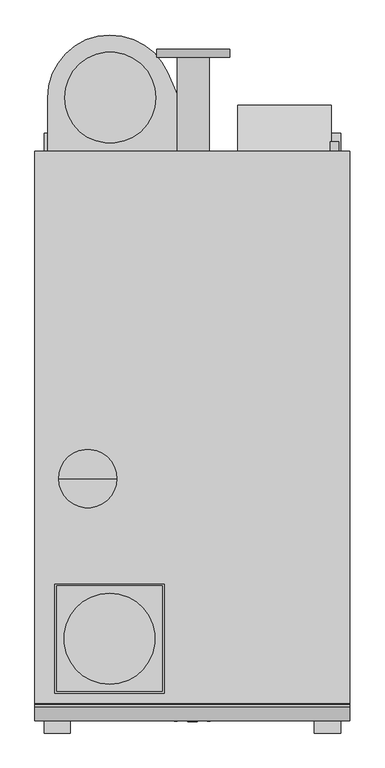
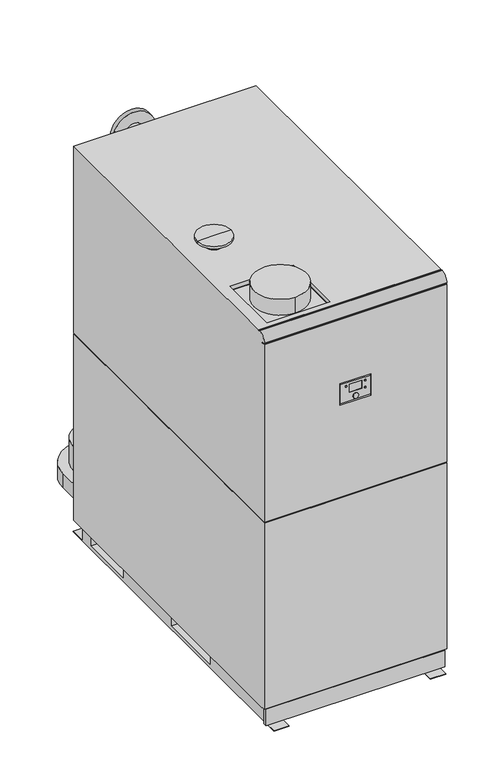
"""IFC4 building model written with IfcOpenShell, lengths in millimetres: unitary equipment geometry, AIC_Boiler_Nesta_Plus_280-840 : N 840 FS Chimney Type C."""

import ifcopenshell
import ifcopenshell.guid

model = None  # the IFC model being written
_history = None  # IfcOwnerHistory: only IFC2X3 demands one
_inside = {}  # id of a spatial element -> (the spatial element, [elements in it])
_under = {}  # id of a project, library or spatial element -> (it, [spatial elements below it])
_declared = {}  # id of a project -> (the project, [libraries it declares])
_typed = {}  # id of a type object -> (the type object, [elements of that type])
_made_of = {}  # id of a material, layer set ... -> (it, [elements and type objects made of it])


def new_model(schema):
    """Start an empty IFC model of exactly this schema.

    Asked for "IFC4X3", IfcOpenShell would pick the latest addendum, in which some entities
    have other attributes; the version numbers below select the first issue.
    IFC2X3 requires an IfcOwnerHistory on every rooted entity: one is made here for all.
    """
    global model, _history
    if schema == "IFC4X3":
        model = ifcopenshell.file(schema_version=(4, 3, 0, 0))
    else:
        model = ifcopenshell.file(schema=schema)
    _inside.clear()
    _under.clear()
    _declared.clear()
    _typed.clear()
    _made_of.clear()
    _history = None
    if model.schema == "IFC2X3":
        org = make("IfcOrganization", Name="unknown")
        user = make(
            "IfcPersonAndOrganization",
            ThePerson=make("IfcPerson", FamilyName="unknown"),
            TheOrganization=org,
        )
        app = make(
            "IfcApplication",
            ApplicationDeveloper=org,
            Version="unknown",
            ApplicationFullName="unknown",
            ApplicationIdentifier="unknown",
        )
        _history = make(
            "IfcOwnerHistory",
            OwningUser=user,
            OwningApplication=app,
            ChangeAction="ADDED",
            CreationDate=0,
        )
    return model


def make(cls, **values):
    """One entity of the class cls with the attributes given. An attribute that is None is left unset."""
    return model.create_entity(
        cls, **{name: value for name, value in values.items() if value is not None}
    )


def rooted(cls, **values):
    """An entity with a GlobalId (a new one), such as an element, a storey or a relation."""
    return make(cls, GlobalId=ifcopenshell.guid.new(), OwnerHistory=_history, **values)


def si_unit(unit_type, name, prefix=None):
    """IfcSIUnit, for example si_unit("LENGTHUNIT", "METRE", prefix="MILLI")."""
    return make("IfcSIUnit", UnitType=unit_type, Prefix=prefix, Name=name)


def assignment(units):
    """IfcUnitAssignment: the units of a project."""
    return None if units is None else make("IfcUnitAssignment", Units=units)


def point(xyz):
    """IfcCartesianPoint."""
    return None if xyz is None else make("IfcCartesianPoint", Coordinates=xyz)


def direction(xyz):
    """IfcDirection."""
    return None if xyz is None else make("IfcDirection", DirectionRatios=xyz)


def frame(location, z_axis=None, x_axis=None):
    """IfcAxis2Placement3D, a coordinate frame: its origin and axes. An axis left out is left unset."""
    return make(
        "IfcAxis2Placement3D",
        Location=point(location),
        Axis=direction(z_axis),
        RefDirection=direction(x_axis),
    )


def frame_2d(location, x_axis=None):
    """IfcAxis2Placement2D, a coordinate frame in the plane: its origin and x axis."""
    return make(
        "IfcAxis2Placement2D", Location=point(location), RefDirection=direction(x_axis)
    )


def origin():
    """The frame at (0, 0, 0) with its axes left unset."""
    return frame((0.0, 0.0, 0.0))


def place(relative_to, where):
    """IfcLocalPlacement: puts the frame where relative to a parent placement (None: the world)."""
    return make(
        "IfcLocalPlacement", PlacementRelTo=relative_to, RelativePlacement=where
    )


def context(
    kind, dimensions, precision=None, world=None, true_north=None, identifier=None
):
    """IfcGeometricRepresentationContext, for example the 3D "Model" context."""
    return make(
        "IfcGeometricRepresentationContext",
        ContextIdentifier=identifier,
        ContextType=kind,
        CoordinateSpaceDimension=dimensions,
        Precision=precision,
        WorldCoordinateSystem=world,
        TrueNorth=true_north,
    )


def project(units=None, contexts=None):
    """IfcProject with its units and contexts."""
    return rooted(
        "IfcProject",
        Name="project",
        RepresentationContexts=contexts,
        UnitsInContext=assignment(units),
    )


def spatial(cls, under=None, at=None, **own):
    """A site, building, storey or space (cls), placed at a placement, below another one or the project."""
    s = rooted(cls, ObjectPlacement=at, **own)
    if under is not None:
        _under.setdefault(under.id(), (under, []))[1].append(s)
    return s


def polyline(points):
    """IfcPolyline through the points."""
    return make("IfcPolyline", Points=[point(p) for p in points])


def circle_curve(where, radius):
    """IfcCircle in the frame where."""
    return make("IfcCircle", Position=where, Radius=radius)


def trimmed(basis, trim1, trim2, sense, master):
    """IfcTrimmedCurve: the piece of a basis curve between two trims."""
    return make(
        "IfcTrimmedCurve",
        BasisCurve=basis,
        Trim1=trim1,
        Trim2=trim2,
        SenseAgreement=sense,
        MasterRepresentation=master,
    )


def segment(curve, same_sense, transition):
    """IfcCompositeCurveSegment."""
    return make(
        "IfcCompositeCurveSegment",
        Transition=transition,
        SameSense=same_sense,
        ParentCurve=curve,
    )


def composite_curve(segments, self_intersect=None):
    """IfcCompositeCurve: segments joined end to end."""
    return make("IfcCompositeCurve", Segments=segments, SelfIntersect=self_intersect)


def outline(outer, holes=None, kind="AREA"):
    """IfcArbitraryClosedProfileDef: a profile drawn as a closed curve; with holes, ...WithVoids."""
    if holes is None:
        return make("IfcArbitraryClosedProfileDef", ProfileType=kind, OuterCurve=outer)
    return make(
        "IfcArbitraryProfileDefWithVoids",
        ProfileType=kind,
        OuterCurve=outer,
        InnerCurves=holes,
    )


def extrude(swept, where, along, depth):
    """IfcExtrudedAreaSolid: the profile swept, set in the frame where, extruded along a direction by depth."""
    return make(
        "IfcExtrudedAreaSolid",
        SweptArea=swept,
        Position=where,
        ExtrudedDirection=direction(along),
        Depth=depth,
    )


def faces_of(points, faces, orient=None, outer=None):
    """IfcFace entities. A face is a list of loops; a loop is a list of indices into points, from 0.

    orient and outer hold one flag for each loop. By default every Orientation is true, the
    first loop of a face is its IfcFaceOuterBound and the others are IfcFaceBound.
    """
    made = []
    for i, loops in enumerate(faces):
        bounds = []
        for j, loop in enumerate(loops):
            is_outer = j == 0 if outer is None else outer[i][j]
            bounds.append(
                make(
                    "IfcFaceOuterBound" if is_outer else "IfcFaceBound",
                    Bound=make("IfcPolyLoop", Polygon=[points[k] for k in loop]),
                    Orientation=True if orient is None else orient[i][j],
                )
            )
        made.append(make("IfcFace", Bounds=bounds))
    return made


def faceted_brep(points, faces, orient=None, outer=None, voids=None):
    """IfcFacetedBrep: a solid bounded by flat faces; with voids (closed shells), ...WithVoids."""
    shared = [point(p) for p in points]
    hull = make("IfcClosedShell", CfsFaces=faces_of(shared, faces, orient, outer))
    if voids is None:
        return make("IfcFacetedBrep", Outer=hull)
    return make(
        "IfcFacetedBrepWithVoids",
        Outer=hull,
        Voids=[
            make(cls, CfsFaces=faces_of(shared, fs, o, b)) for cls, fs, o, b in voids
        ],
    )


def shape(context_of_items, identifier, shape_type, items):
    """IfcShapeRepresentation: the items that make up one representation, for example the "Body"."""
    return make(
        "IfcShapeRepresentation",
        ContextOfItems=context_of_items,
        RepresentationIdentifier=identifier,
        RepresentationType=shape_type,
        Items=items,
    )


def source(mapping_origin, context_of_items, identifier, shape_type, items):
    """IfcRepresentationMap: a shape defined once, which mapped items show again and again."""
    return make(
        "IfcRepresentationMap",
        MappingOrigin=mapping_origin,
        MappedRepresentation=shape(context_of_items, identifier, shape_type, items),
    )


def transform(
    local_origin,
    x_axis=None,
    y_axis=None,
    z_axis=None,
    scale=None,
    scale2=None,
    scale3=None,
    uniform=True,
):
    """IfcCartesianTransformationOperator3D, or its non-uniform kind. x_axis, y_axis, z_axis: its Axis1, 2, 3."""
    if uniform:
        return make(
            "IfcCartesianTransformationOperator3D",
            Axis1=direction(x_axis),
            Axis2=direction(y_axis),
            LocalOrigin=point(local_origin),
            Scale=scale,
            Axis3=direction(z_axis),
        )
    return make(
        "IfcCartesianTransformationOperator3DnonUniform",
        Axis1=direction(x_axis),
        Axis2=direction(y_axis),
        LocalOrigin=point(local_origin),
        Scale=scale,
        Axis3=direction(z_axis),
        Scale2=scale2,
        Scale3=scale3,
    )


def mapped(mapping_source, mapping_target):
    """IfcMappedItem: shows the shape of a source again, moved by a transform."""
    return make(
        "IfcMappedItem", MappingSource=mapping_source, MappingTarget=mapping_target
    )


def made_of(thing, what):
    """Note that an element or type object is made of a material, layer set ...; save() writes the relation."""
    if what is not None:
        _made_of.setdefault(what.id(), (what, []))[1].append(thing)
    return thing


def element(
    cls,
    number,
    at=None,
    inside=None,
    cuts=None,
    type_object=None,
    material=None,
    context=None,
    identifier="Body",
    shape_type=None,
    held_by="IfcProductDefinitionShape",
    body=None,
    shapes=None,
    **own,
):
    """One element of the class cls, such as IfcWall. Its Tag is "e" and its number.

    at: its placement. inside: the storey or other place that contains it. cuts: it is an
    opening in that element (IfcRelVoidsElement). A single representation is given by context,
    identifier, shape_type and body (its items); several are given by shapes. held_by: the class
    of the entity that holds the representations. save() writes the other relations.
    """
    e = rooted(cls, Tag="e%d" % number, ObjectPlacement=at, **own)
    if body is not None:
        shapes = [shape(context, identifier, shape_type, body)]
    if shapes is not None:
        e.Representation = make(held_by, Representations=shapes)
    if inside is not None:
        _inside.setdefault(inside.id(), (inside, []))[1].append(e)
    if cuts is not None:
        rooted(
            "IfcRelVoidsElement", RelatingBuildingElement=cuts, RelatedOpeningElement=e
        )
    if type_object is not None:
        _typed.setdefault(type_object.id(), (type_object, []))[1].append(e)
    return made_of(e, material)


def aggregate(whole, parts):
    """IfcRelAggregates: a whole, such as a stair, and the parts it consists of."""
    return rooted("IfcRelAggregates", RelatingObject=whole, RelatedObjects=parts)


def save(model, path):
    """Write the relations noted so far, then the file.

    IfcRelAggregates (storeys below a building ...), IfcRelContainedInSpatialStructure (elements
    in a storey), IfcRelDefinesByType, IfcRelAssociatesMaterial and IfcRelDeclares: one each for
    every whole, place, type object, material and project.
    """
    for whole, parts in _under.values():
        aggregate(whole, parts)
    for where, things in _inside.values():
        rooted(
            "IfcRelContainedInSpatialStructure",
            RelatedElements=things,
            RelatingStructure=where,
        )
    for kind, things in _typed.values():
        rooted("IfcRelDefinesByType", RelatedObjects=things, RelatingType=kind)
    for what, things in _made_of.values():
        rooted("IfcRelAssociatesMaterial", RelatedObjects=things, RelatingMaterial=what)
    for by, libraries in _declared.values():
        rooted("IfcRelDeclares", RelatingContext=by, RelatedDefinitions=libraries)
    model.write(path)


def plane_surface(at):
    """IfcPlane: the flat surface through the origin of the frame at, square to its z axis."""
    return make("IfcPlane", Position=at)


def cylinder_surface(at, radius):
    """IfcCylindricalSurface: all points at the distance radius from the z axis of the frame at."""
    return make("IfcCylindricalSurface", Position=at, Radius=radius)


def advanced_brep(points, edges, surfaces, faces):
    """IfcAdvancedBrep: a solid bounded by faces that lie on surfaces and meet in shared edges.

    An edge is (start, end): straight between two places in points (the first is 0);
    or (start, end, curve); or (start, end, curve, False) where it runs against its curve.
    A face is (place in surfaces, loops), or (place, loops, False) where it looks against
    its surface's normal. A loop lists edges by number (the first is 1), with a minus sign
    where the edge is run from its end to its start. The first loop is the outer one.
    """
    corners = [point(p) for p in points]
    vertices = [make("IfcVertexPoint", VertexGeometry=c) for c in corners]
    made = []
    for start, end, *more in edges:
        made.append(
            make(
                "IfcEdgeCurve",
                EdgeStart=vertices[start],
                EdgeEnd=vertices[end],
                EdgeGeometry=more[0] if more else make("IfcPolyline", Points=[corners[start], corners[end]]),
                SameSense=more[1] if len(more) > 1 else True,
            )
        )
    hull = []
    for where, loops, *sense in faces:
        bounds = []
        for j, loop in enumerate(loops):
            ring = [make("IfcOrientedEdge", EdgeElement=made[abs(k) - 1], Orientation=k > 0) for k in loop]
            bounds.append(
                make(
                    "IfcFaceOuterBound" if j == 0 else "IfcFaceBound",
                    Bound=make("IfcEdgeLoop", EdgeList=ring),
                    Orientation=True,
                )
            )
        hull.append(make("IfcAdvancedFace", Bounds=bounds, FaceSurface=surfaces[where], SameSense=sense[0] if sense else True))
    return make("IfcAdvancedBrep", Outer=make("IfcClosedShell", CfsFaces=hull))


def unitary_equipment_a4b2b258(model_context):
    return source(origin(), model_context, "Body", "SolidModel", [
        extrude(outline(composite_curve([segment(trimmed(circle_curve(frame_2d((100.0, 329.5)), 13.35), [point((100.0, 342.85))], [point((100.0, 316.15))], False, "CARTESIAN"), True, "CONTINUOUS"), segment(trimmed(circle_curve(frame_2d((100.0, 329.5)), 13.35), [point((100.0, 316.15))], [point((100.0, 342.85))], False, "CARTESIAN"), True, "CONTINUOUS")], self_intersect=False)), frame((0.0, 91.0, 0.0), z_axis=(0.0, 1.0, 0.0), x_axis=(0.0, 0.0, 1.0)), (0.0, 0.0, 1.0), 24.0),
        faceted_brep([(382.5, 0.0, 80.0), (382.5, 126.0, 80.0), (382.5, 126.0, 81.0), (382.5, 1.0, 81.0), (382.5, 1.0, 140.0), (382.5, 126.0, 140.0), (382.5, 126.0, 242.0), (382.5, 0.0, 310.0), (124.5, 0.0, 80.0), (124.5, 0.0, 310.0), (124.5, 126.0, 242.0), (124.5, 126.0, 80.0), (300.5, 126.0, 140.0), (300.5, 126.0, 81.0), (349.5, 1.0, 140.0), (349.5, 1.0, 81.0), (349.5, 91.0, 81.0), (349.5, 91.0, 140.0), (300.5, 91.0, 81.0), (300.5, 91.0, 140.0)], [[[0, 1, 2, 3, 4, 5, 6, 7]], [[8, 9, 10, 11]], [[1, 0, 8, 11]], [[11, 10, 6, 5, 12, 13, 2, 1]], [[7, 6, 10, 9]], [[0, 7, 9, 8]], [[14, 4, 3, 15]], [[14, 15, 16, 17]], [[15, 3, 2, 13, 18, 16]], [[4, 14, 17, 19, 12, 5]], [[19, 17, 16, 18]], [[19, 18, 13, 12]]]),
        extrude(outline(composite_curve([segment(trimmed(circle_curve(frame_2d((1520.0, 0.0)), 13.0), [point((1520.0, -13.0))], [point((1520.0, 13.0))], False, "CARTESIAN"), True, "CONTINUOUS"), segment(trimmed(circle_curve(frame_2d((1520.0, 0.0)), 13.0), [point((1520.0, 13.0))], [point((1520.0, -13.0))], False, "CARTESIAN"), True, "CONTINUOUS")], self_intersect=False)), frame((0.0, -1568.0, 0.0), z_axis=(0.0, 1.0, 0.0), x_axis=(0.0, 0.0, 1.0)), (0.0, 0.0, 1.0), 3.0),
        extrude(outline(composite_curve([segment(trimmed(circle_curve(frame_2d((1581.0, -45.0)), 4.0), [point((1581.0, -49.0))], [point((1581.0, -41.0))], False, "CARTESIAN"), True, "CONTINUOUS"), segment(trimmed(circle_curve(frame_2d((1581.0, -45.0)), 4.0), [point((1581.0, -41.0))], [point((1581.0, -49.0))], False, "CARTESIAN"), True, "CONTINUOUS")], self_intersect=False)), frame((0.0, -1567.0, 0.0), z_axis=(0.0, 1.0, 0.0), x_axis=(0.0, 0.0, 1.0)), (0.0, 0.0, 1.0), 2.0),
        extrude(outline(composite_curve([segment(trimmed(circle_curve(frame_2d((1581.0, 45.0)), 4.0), [point((1581.0, 41.0))], [point((1581.0, 49.0))], False, "CARTESIAN"), True, "CONTINUOUS"), segment(trimmed(circle_curve(frame_2d((1581.0, 45.0)), 4.0), [point((1581.0, 49.0))], [point((1581.0, 41.0))], False, "CARTESIAN"), True, "CONTINUOUS")], self_intersect=False)), frame((0.0, -1567.0, 0.0), z_axis=(0.0, 1.0, 0.0), x_axis=(0.0, 0.0, 1.0)), (0.0, 0.0, 1.0), 2.0),
        extrude(outline(composite_curve([segment(trimmed(circle_curve(frame_2d((1546.0, 45.0)), 4.0), [point((1546.0, 41.0))], [point((1546.0, 49.0))], False, "CARTESIAN"), True, "CONTINUOUS"), segment(trimmed(circle_curve(frame_2d((1546.0, 45.0)), 4.0), [point((1546.0, 49.0))], [point((1546.0, 41.0))], False, "CARTESIAN"), True, "CONTINUOUS")], self_intersect=False)), frame((0.0, -1567.0, 0.0), z_axis=(0.0, 1.0, 0.0), x_axis=(0.0, 0.0, 1.0)), (0.0, 0.0, 1.0), 2.0),
        faceted_brep([(71.0, -1555.0, 1596.0), (71.0, -1555.0, 1502.0), (-71.0, -1555.0, 1502.0), (-71.0, -1555.0, 1596.0), (71.0, -1565.0, 1596.0), (-71.0, -1565.0, 1596.0), (-71.0, -1565.0, 1502.0), (71.0, -1565.0, 1502.0), (-30.0, -1565.0, 1585.0), (30.0, -1565.0, 1585.0), (30.0, -1565.0, 1545.0), (-30.0, -1565.0, 1545.0), (30.0, -1564.0, 1585.0), (-30.0, -1564.0, 1585.0), (-30.0, -1564.0, 1545.0), (30.0, -1564.0, 1545.0)], [[[0, 1, 2, 3]], [[4, 5, 6, 7], [8, 9, 10, 11]], [[0, 3, 5, 4]], [[3, 2, 6, 5]], [[2, 1, 7, 6]], [[1, 0, 4, 7]], [[12, 13, 14, 15]], [[13, 12, 9, 8]], [[14, 13, 8, 11]], [[15, 14, 11, 10]], [[12, 15, 10, 9]]]),
        advanced_brep(
        [(-287.5, -900.0, 1970.0), (-324.5, -900.0, 1970.0), (-250.5, -900.0, 1970.0), (-207.5, -900.0, 2017.0), (-367.5, -900.0, 2017.0), (-287.5, -900.0, 2017.0), (-207.5, -900.0, 2006.0), (-367.5, -900.0, 2006.0), (-250.5, -900.0, 2006.0), (-324.5, -900.0, 2006.0)],
        [
            (0, 1),
            (1, 2, circle_curve(frame((-287.5, -900.0, 1970.0), z_axis=(0.0, 0.0, -1.0), x_axis=(-1.0, 0.0, 0.0)), 37.0)),
            (2, 0),
            (2, 1, circle_curve(frame((-287.5, -900.0, 1970.0), z_axis=(0.0, 0.0, -1.0), x_axis=(-1.0, 0.0, 0.0)), 37.0)),
            (3, 4, circle_curve(frame((-287.5, -900.0, 2017.0), z_axis=(0.0, 0.0, 1.0), x_axis=(-1.0, 0.0, 0.0)), 80.0)),
            (4, 5),
            (5, 3),
            (4, 3, circle_curve(frame((-287.5, -900.0, 2017.0), z_axis=(0.0, 0.0, 1.0), x_axis=(-1.0, 0.0, 0.0)), 80.0)),
            (6, 7, circle_curve(frame((-287.5, -900.0, 2006.0), z_axis=(0.0, 0.0, 1.0), x_axis=(-1.0, 0.0, 0.0)), 80.0)),
            (7, 4),
            (3, 6),
            (7, 6, circle_curve(frame((-287.5, -900.0, 2006.0), z_axis=(0.0, 0.0, 1.0), x_axis=(-1.0, 0.0, 0.0)), 80.0)),
            (8, 9, circle_curve(frame((-287.5, -900.0, 2006.0), z_axis=(0.0, 0.0, 1.0), x_axis=(-1.0, 0.0, 0.0)), 37.0)),
            (9, 7),
            (6, 8),
            (9, 8, circle_curve(frame((-287.5, -900.0, 2006.0), z_axis=(0.0, 0.0, 1.0), x_axis=(-1.0, 0.0, 0.0)), 37.0)),
            (1, 9),
            (8, 2),
        ],
        [
            plane_surface(frame((-287.5, -900.0, 1970.0), z_axis=(0.0, 0.0, -1.0), x_axis=(-1.0, 0.0, 0.0))),
            plane_surface(frame((-287.5, -900.0, 2017.0), z_axis=(0.0, 0.0, 1.0), x_axis=(-1.0, 0.0, 0.0))),
            cylinder_surface(frame((-287.5, -900.0, 1945.0), z_axis=(0.0, 0.0, -1.0), x_axis=(-1.0, 0.0, 0.0)), 80.0),
            plane_surface(frame((-287.5, -900.0, 2006.0), z_axis=(0.0, 0.0, -1.0), x_axis=(-1.0, 0.0, 0.0))),
            cylinder_surface(frame((-287.5, -900.0, 1945.0), z_axis=(0.0, 0.0, -1.0), x_axis=(-1.0, 0.0, 0.0)), 37.0),
        ],
        [
            (0, [[1, 2, 3]]),
            (0, [[-3, 4, -1]]),
            (1, [[5, 6, 7]]),
            (1, [[8, -7, -6]]),
            (2, [[9, 10, -5, 11]]),
            (2, [[12, -11, -8, -10]]),
            (3, [[13, 14, -9, 15]]),
            (3, [[16, -15, -12, -14]]),
            (4, [[-2, 17, -13, 18]]),
            (4, [[-4, -18, -16, -17]]),
        ],
    ),
        extrude(outline(composite_curve([segment(trimmed(circle_curve(frame_2d((1038.0, 390.5)), 11.6), [point((1038.0, 378.9))], [point((1038.0, 402.1))], False, "CARTESIAN"), True, "CONTINUOUS"), segment(trimmed(circle_curve(frame_2d((1038.0, 390.5)), 11.6), [point((1038.0, 402.1))], [point((1038.0, 378.9))], False, "CARTESIAN"), True, "CONTINUOUS")], self_intersect=False)), frame((0.0, 0.0, 0.0), z_axis=(0.0, 1.0, 0.0), x_axis=(0.0, 0.0, 1.0)), (0.0, 0.0, 1.0), 26.0),
        extrude(outline(composite_curve([segment(trimmed(circle_curve(frame_2d((-227.5, -1340.0)), 125.0), [point((-227.5, -1215.0))], [point((-227.5, -1465.0))], False, "CARTESIAN"), True, "CONTINUOUS"), segment(trimmed(circle_curve(frame_2d((-227.5, -1340.0)), 125.0), [point((-227.5, -1465.0))], [point((-227.5, -1215.0))], False, "CARTESIAN"), True, "CONTINUOUS")], self_intersect=False)), frame((0.0, 0.0, 1950.0), z_axis=(0.0, 0.0, 1.0), x_axis=(1.0, 0.0, 0.0)), (0.0, 0.0, 1.0), 80.0),
        extrude(outline(polyline([(-82.5, -1195.0), (-82.5, -1485.0), (-372.5, -1485.0), (-372.5, -1195.0), (-82.5, -1195.0)])), frame((0.0, 0.0, 1950.0), z_axis=(0.0, 0.0, 1.0), x_axis=(1.0, 0.0, 0.0)), (0.0, 0.0, 1.0), 1.0),
        advanced_brep(
        [(102.5, 258.0, 1731.0), (-97.5, 258.0, 1731.0), (46.5, 258.0, 1731.0), (-41.5, 258.0, 1731.0), (102.5, 280.0, 1731.0), (-97.5, 280.0, 1731.0), (-41.5, -10.0, 1731.0), (46.5, -10.0, 1731.0)],
        [
            (0, 1, circle_curve(frame((2.5, 258.0, 1731.0), z_axis=(0.0, -1.0, 0.0), x_axis=(-1.0, 0.0, 0.0)), 100.0)),
            (1, 0, circle_curve(frame((2.5, 258.0, 1731.0), z_axis=(0.0, -1.0, 0.0), x_axis=(-1.0, 0.0, 0.0)), 100.0)),
            (2, 3, circle_curve(frame((2.5, 258.0, 1731.0), z_axis=(0.0, 1.0, 0.0), x_axis=(1.0, 0.0, 0.0)), 44.0)),
            (3, 2, circle_curve(frame((2.5, 258.0, 1731.0), z_axis=(0.0, 1.0, 0.0), x_axis=(1.0, 0.0, 0.0)), 44.0)),
            (4, 5, circle_curve(frame((2.5, 280.0, 1731.0), z_axis=(0.0, 1.0, 0.0), x_axis=(-1.0, 0.0, 0.0)), 100.0)),
            (5, 4, circle_curve(frame((2.5, 280.0, 1731.0), z_axis=(0.0, 1.0, 0.0), x_axis=(-1.0, 0.0, 0.0)), 100.0)),
            (1, 5),
            (4, 0),
            (6, 7, circle_curve(frame((2.5, -10.0, 1731.0), z_axis=(0.0, -1.0, 0.0), x_axis=(1.0, 0.0, 0.0)), 44.0)),
            (7, 6, circle_curve(frame((2.5, -10.0, 1731.0), z_axis=(0.0, -1.0, 0.0), x_axis=(1.0, 0.0, 0.0)), 44.0)),
            (6, 3),
            (2, 7),
        ],
        [
            plane_surface(frame((-97.5, 258.0, 1731.0), z_axis=(0.0, -1.0, 0.0), x_axis=(0.0, 0.0, -1.0))),
            plane_surface(frame((-97.5, 280.0, 1731.0), z_axis=(0.0, 1.0, 0.0), x_axis=(0.0, 0.0, 1.0))),
            cylinder_surface(frame((2.5, 258.0, 1731.0), z_axis=(0.0, 1.0, 0.0), x_axis=(-1.0, 0.0, 0.0)), 100.0),
            plane_surface(frame((46.5, -10.0, 1731.0), z_axis=(0.0, -1.0, 0.0), x_axis=(0.0, 0.0, 1.0))),
            cylinder_surface(frame((2.5, 280.0, 1731.0), z_axis=(0.0, -1.0, 0.0), x_axis=(1.0, 0.0, 0.0)), 44.0),
        ],
        [
            (0, [[1, 2], [3, 4]]),
            (1, [[5, 6]]),
            (2, [[-2, 7, -5, 8]]),
            (2, [[-1, -8, -6, -7]]),
            (3, [[9, 10]]),
            (4, [[-9, 11, -3, 12]]),
            (4, [[-10, -12, -4, -11]]),
        ],
    ),
        advanced_brep(
        [(-41.5, 0.0, 360.0), (46.5, 0.0, 360.0), (102.5, 280.0, 360.0), (-97.5, 280.0, 360.0), (-41.5, 258.0, 360.0), (46.5, 258.0, 360.0), (102.5, 258.0, 360.0), (-97.5, 258.0, 360.0)],
        [
            (0, 1, circle_curve(frame((2.5, 0.0, 360.0), z_axis=(0.0, -1.0, 0.0), x_axis=(1.0, 0.0, 0.0)), 44.0)),
            (1, 0, circle_curve(frame((2.5, 0.0, 360.0), z_axis=(0.0, -1.0, 0.0), x_axis=(1.0, 0.0, 0.0)), 44.0)),
            (2, 3, circle_curve(frame((2.5, 280.0, 360.0), z_axis=(0.0, 1.0, 0.0), x_axis=(-1.0, 0.0, 0.0)), 100.0)),
            (3, 2, circle_curve(frame((2.5, 280.0, 360.0), z_axis=(0.0, 1.0, 0.0), x_axis=(-1.0, 0.0, 0.0)), 100.0)),
            (0, 4),
            (4, 5, circle_curve(frame((2.5, 258.0, 360.0), z_axis=(0.0, -1.0, 0.0), x_axis=(1.0, 0.0, 0.0)), 44.0)),
            (5, 1),
            (5, 4, circle_curve(frame((2.5, 258.0, 360.0), z_axis=(0.0, -1.0, 0.0), x_axis=(1.0, 0.0, 0.0)), 44.0)),
            (6, 7, circle_curve(frame((2.5, 258.0, 360.0), z_axis=(0.0, -1.0, 0.0), x_axis=(-1.0, 0.0, 0.0)), 100.0)),
            (7, 6, circle_curve(frame((2.5, 258.0, 360.0), z_axis=(0.0, -1.0, 0.0), x_axis=(-1.0, 0.0, 0.0)), 100.0)),
            (7, 3),
            (2, 6),
        ],
        [
            plane_surface(frame((46.5, 0.0, 360.0), z_axis=(0.0, -1.0, 0.0), x_axis=(0.0, 0.0, 1.0))),
            plane_surface(frame((46.5, 280.0, 360.0), z_axis=(0.0, 1.0, 0.0), x_axis=(0.0, 0.0, -1.0))),
            cylinder_surface(frame((2.5, 280.0, 360.0), z_axis=(0.0, -1.0, 0.0), x_axis=(1.0, 0.0, 0.0)), 44.0),
            plane_surface(frame((-97.5, 258.0, 360.0), z_axis=(0.0, -1.0, 0.0), x_axis=(0.0, 0.0, -1.0))),
            cylinder_surface(frame((2.5, 258.0, 360.0), z_axis=(0.0, 1.0, 0.0), x_axis=(-1.0, 0.0, 0.0)), 100.0),
        ],
        [
            (0, [[1, 2]]),
            (1, [[3, 4]]),
            (2, [[-1, 5, 6, 7]]),
            (2, [[-2, -7, 8, -5]]),
            (3, [[9, 10], [-6, -8]]),
            (4, [[-10, 11, -3, 12]]),
            (4, [[-9, -12, -4, -11]]),
        ],
    ),
        extrude(outline(composite_curve([segment(trimmed(circle_curve(frame_2d((-225.5, 147.0)), 125.0), [point((-100.5, 147.0))], [point((-350.5, 147.0))], False, "CARTESIAN"), True, "CONTINUOUS"), segment(trimmed(circle_curve(frame_2d((-225.5, 147.0)), 125.0), [point((-350.5, 147.0))], [point((-100.5, 147.0))], False, "CARTESIAN"), True, "CONTINUOUS")], self_intersect=False)), frame((0.0, 0.0, 228.0), z_axis=(0.0, 0.0, 1.0), x_axis=(1.0, 0.0, 0.0)), (0.0, 0.0, 1.0), 122.0),
        extrude(outline(composite_curve([segment(trimmed(circle_curve(frame_2d((-225.5, 147.0)), 172.2664787), [point((-397.7664787, 147.0))], [point((-67.3169163, 215.2191449))], False, "CARTESIAN"), True, "CONTINUOUS"), segment(polyline([(-67.3169163, 215.2191449), (25.5, 0.0), (-397.7664787, 0.0), (-397.7664787, 147.0)]), True, "CONTINUOUS")], self_intersect=False)), frame((0.0, 0.0, 157.0), z_axis=(0.0, 0.0, 1.0), x_axis=(1.0, 0.0, 0.0)), (0.0, 0.0, 1.0), 71.0),
        advanced_brep(
        [(432.5, 0.0, 1970.0), (-432.5, 0.0, 1970.0), (-432.5, -1517.0, 1970.0), (432.5, -1517.0, 1970.0), (-377.5, -1190.0, 1970.0), (-77.5, -1190.0, 1970.0), (-77.5, -1490.0, 1970.0), (-377.5, -1490.0, 1970.0), (-432.5, -1526.6616502, 1970.0), (432.5, -1526.6616502, 1970.0), (432.5, -1521.0, 1970.0), (-432.5, -1521.0, 1970.0), (36.0, -1545.0, 0.0), (-36.0, -1545.0, 0.0), (-36.0, -31.0, 0.0), (36.0, -31.0, 0.0), (-407.5, 49.0, 0.0), (-335.5, 49.0, 0.0), (-335.5, -1599.0, 0.0), (-407.5, -1599.0, 0.0), (335.5, 49.0, 0.0), (407.5, 49.0, 0.0), (407.5, -1599.0, 0.0), (335.5, -1599.0, 0.0), (432.5, 0.0, 1036.0), (432.5, -1517.0, 1968.0), (432.5, -1521.0, 1968.0), (432.5, -1565.0, 1931.6616502), (432.5, -1565.0, 1929.0), (432.5, -1545.0, 1929.0), (432.5, -1545.0, 1923.0), (432.5, -1565.0, 1923.0), (432.5, -1565.0, 1036.0), (432.5, 0.0, 1030.0), (432.5, -1565.0, 1030.0), (432.5, -1565.0, 100.0), (432.5, -1545.0, 100.0), (432.5, -1545.0, 95.0), (432.5, 0.0, 95.0), (423.5, 0.0, 1036.0), (423.5, 0.0, 1030.0), (-432.5, 0.0, 95.0), (-432.5, 0.0, 1030.0), (-423.5, 0.0, 1030.0), (-423.5, 0.0, 1036.0), (-432.5, 0.0, 1036.0), (-432.5, -1565.0, 1036.0), (-432.5, -1565.0, 1923.0), (-432.5, -1545.0, 1923.0), (-432.5, -1545.0, 1929.0), (-432.5, -1565.0, 1929.0), (-432.5, -1565.0, 1931.6616502), (-432.5, -1521.0, 1968.0), (-432.5, -1517.0, 1968.0), (-432.5, -1565.0, 1030.0), (-432.5, -1545.0, 95.0), (-432.5, -1545.0, 100.0), (-432.5, -1565.0, 100.0), (-73.0, -1565.0, 1603.0), (73.0, -1565.0, 1603.0), (73.0, -1565.0, 1495.0), (-73.0, -1565.0, 1495.0), (423.5, -1565.0, 12.0), (423.5, -1565.0, 95.0), (-423.5, -1565.0, 95.0), (-423.5, -1565.0, 12.0), (-423.5, -1545.0, 1036.0), (423.5, -1545.0, 1036.0), (423.5, -1545.0, 1030.0), (-423.5, -1545.0, 1030.0), (36.0, -1545.0, 12.0), (-36.0, -1545.0, 12.0), (-423.5, -1545.0, 95.0), (-407.5, -1545.0, 95.0), (-335.5, -1545.0, 95.0), (-36.0, -1545.0, 95.0), (36.0, -1545.0, 95.0), (335.5, -1545.0, 95.0), (407.5, -1545.0, 95.0), (423.5, -1545.0, 95.0), (-335.5, -1545.0, 12.0), (-407.5, -1545.0, 12.0), (-407.5, -1545.0, 3.0), (-335.5, -1545.0, 3.0), (407.5, -1545.0, 12.0), (335.5, -1545.0, 12.0), (335.5, -1545.0, 3.0), (407.5, -1545.0, 3.0), (423.5, -1545.0, 12.0), (-423.5, -1545.0, 12.0), (-36.0, -1545.0, 95.0), (-335.5, -1545.0, 95.0), (-335.5, -31.0, 95.0), (-407.5, -31.0, 95.0), (-407.5, -1545.0, 95.0), (407.5, -1545.0, 95.0), (407.5, -31.0, 95.0), (335.5, -31.0, 95.0), (335.5, -1545.0, 95.0), (36.0, -1545.0, 95.0), (36.0, -31.0, 95.0), (-36.0, -31.0, 95.0), (-407.5, -31.0, 3.0), (-407.5, 49.0, 3.0), (-407.5, -1599.0, 3.0), (-407.5, -762.0, 80.0), (-407.5, -1077.0, 80.0), (-407.5, -1077.0, 20.0), (-407.5, -762.0, 20.0), (-407.5, -100.0, 80.0), (-407.5, -362.0, 80.0), (-407.5, -362.0, 20.0), (-407.5, -100.0, 20.0), (407.5, -1599.0, 3.0), (407.5, 49.0, 3.0), (407.5, -31.0, 3.0), (407.5, -1077.0, 80.0), (407.5, -762.0, 80.0), (407.5, -762.0, 20.0), (407.5, -1077.0, 20.0), (407.5, -362.0, 80.0), (407.5, -100.0, 80.0), (407.5, -100.0, 20.0), (407.5, -362.0, 20.0), (-335.5, -1599.0, 3.0), (-335.5, 49.0, 3.0), (-335.5, -31.0, 3.0), (-335.5, -1077.0, 80.0), (-335.5, -762.0, 80.0), (-335.5, -762.0, 20.0), (-335.5, -1077.0, 20.0), (-335.5, -362.0, 80.0), (-335.5, -100.0, 80.0), (-335.5, -100.0, 20.0), (-335.5, -362.0, 20.0), (-36.0, -762.0, 80.0), (-36.0, -1077.0, 80.0), (-36.0, -1077.0, 20.0), (-36.0, -762.0, 20.0), (-36.0, -100.0, 80.0), (-36.0, -362.0, 80.0), (-36.0, -362.0, 20.0), (-36.0, -100.0, 20.0), (36.0, -1077.0, 80.0), (36.0, -762.0, 80.0), (36.0, -762.0, 20.0), (36.0, -1077.0, 20.0), (36.0, -362.0, 80.0), (36.0, -100.0, 80.0), (36.0, -100.0, 20.0), (36.0, -362.0, 20.0), (335.5, -31.0, 3.0), (335.5, 49.0, 3.0), (335.5, -1599.0, 3.0), (335.5, -762.0, 80.0), (335.5, -1077.0, 80.0), (335.5, -1077.0, 20.0), (335.5, -762.0, 20.0), (335.5, -100.0, 80.0), (335.5, -362.0, 80.0), (335.5, -362.0, 20.0), (335.5, -100.0, 20.0), (73.0, -1545.0, 1603.0), (-73.0, -1545.0, 1603.0), (-73.0, -1545.0, 1495.0), (73.0, -1545.0, 1495.0), (-77.5, -1190.0, 1950.0), (-377.5, -1190.0, 1950.0), (-377.5, -1490.0, 1950.0), (-77.5, -1490.0, 1950.0)],
        [
            (0, 1),
            (1, 2),
            (2, 3),
            (3, 0),
            (4, 5),
            (5, 6),
            (6, 7),
            (7, 4),
            (8, 9),
            (9, 10),
            (10, 11),
            (11, 8),
            (12, 13),
            (13, 14),
            (14, 15),
            (15, 12),
            (16, 17),
            (17, 18),
            (18, 19),
            (19, 16),
            (20, 21),
            (21, 22),
            (22, 23),
            (23, 20),
            (24, 0),
            (3, 25),
            (25, 26),
            (26, 10),
            (9, 27, circle_curve(frame((432.5, -1526.6616502, 1931.6616502), z_axis=(1.0, 0.0, 0.0), x_axis=(0.0, 1.0, 0.0)), 38.3383498)),
            (27, 28),
            (28, 29),
            (29, 30),
            (30, 31),
            (31, 32),
            (32, 24),
            (33, 34),
            (34, 35),
            (35, 36),
            (36, 37),
            (37, 38),
            (38, 33),
            (24, 39),
            (39, 40),
            (40, 33),
            (38, 41),
            (41, 42),
            (42, 43),
            (43, 44),
            (44, 45),
            (45, 1),
            (45, 46),
            (46, 47),
            (47, 48),
            (48, 49),
            (49, 50),
            (50, 51),
            (51, 8, circle_curve(frame((-432.5, -1526.6616502, 1931.6616502), z_axis=(-1.0, 0.0, 0.0), x_axis=(0.0, 1.0, 0.0)), 38.3383498)),
            (11, 52),
            (52, 53),
            (53, 2),
            (54, 42),
            (41, 55),
            (55, 56),
            (56, 57),
            (57, 54),
            (46, 32),
            (31, 47),
            (58, 59),
            (59, 60),
            (60, 61),
            (61, 58),
            (34, 54),
            (57, 35),
            (27, 51),
            (50, 28),
            (62, 63),
            (63, 64),
            (64, 65),
            (65, 62),
            (44, 66),
            (66, 67),
            (67, 39),
            (40, 68),
            (68, 69),
            (69, 43),
            (67, 68),
            (66, 69),
            (30, 48),
            (29, 49),
            (26, 52),
            (25, 53),
            (12, 70),
            (70, 71),
            (71, 13),
            (36, 56),
            (55, 72),
            (72, 73),
            (73, 74),
            (74, 75),
            (75, 76),
            (76, 77),
            (77, 78),
            (78, 79),
            (79, 37),
            (80, 81),
            (81, 82),
            (82, 83),
            (83, 80),
            (84, 85),
            (85, 86),
            (86, 87),
            (87, 84),
            (62, 88),
            (88, 79),
            (79, 63),
            (65, 89),
            (89, 81),
            (80, 71),
            (70, 85),
            (84, 88),
            (64, 72),
            (72, 89),
            (90, 91),
            (91, 92),
            (92, 93),
            (93, 94),
            (94, 72),
            (79, 95),
            (95, 96),
            (96, 97),
            (97, 98),
            (98, 99),
            (99, 100),
            (100, 101),
            (101, 90),
            (94, 81),
            (93, 102),
            (102, 103),
            (103, 16),
            (19, 104),
            (104, 82),
            (105, 106),
            (106, 107),
            (107, 108),
            (108, 105),
            (109, 110),
            (110, 111),
            (111, 112),
            (112, 109),
            (95, 84),
            (87, 113),
            (113, 22),
            (21, 114),
            (114, 115),
            (115, 96),
            (116, 117),
            (117, 118),
            (118, 119),
            (119, 116),
            (120, 121),
            (121, 122),
            (122, 123),
            (123, 120),
            (91, 80),
            (83, 124),
            (124, 18),
            (17, 125),
            (125, 126),
            (126, 92),
            (127, 128),
            (128, 129),
            (129, 130),
            (130, 127),
            (131, 132),
            (132, 133),
            (133, 134),
            (134, 131),
            (90, 71),
            (101, 14),
            (135, 136),
            (136, 137),
            (137, 138),
            (138, 135),
            (139, 140),
            (140, 141),
            (141, 142),
            (142, 139),
            (99, 70),
            (15, 100),
            (143, 144),
            (144, 145),
            (145, 146),
            (146, 143),
            (147, 148),
            (148, 149),
            (149, 150),
            (150, 147),
            (98, 85),
            (97, 151),
            (151, 152),
            (152, 20),
            (23, 153),
            (153, 86),
            (154, 155),
            (155, 156),
            (156, 157),
            (157, 154),
            (158, 159),
            (159, 160),
            (160, 161),
            (161, 158),
            (126, 102),
            (115, 151),
            (105, 128),
            (127, 106),
            (135, 144),
            (143, 136),
            (154, 117),
            (116, 155),
            (130, 107),
            (146, 137),
            (119, 156),
            (129, 108),
            (145, 138),
            (118, 157),
            (109, 132),
            (131, 110),
            (139, 148),
            (147, 140),
            (158, 121),
            (120, 159),
            (134, 111),
            (150, 141),
            (123, 160),
            (133, 112),
            (149, 142),
            (122, 161),
            (114, 152),
            (125, 103),
            (104, 124),
            (153, 113),
            (162, 163),
            (163, 164),
            (164, 165),
            (165, 162),
            (162, 59),
            (58, 163),
            (61, 164),
            (60, 165),
            (166, 167),
            (167, 168),
            (168, 169),
            (169, 166),
            (166, 5),
            (4, 167),
            (7, 168),
            (6, 169),
        ],
        [
            plane_surface(frame((432.5, -1565.0, 1970.0), z_axis=(0.0, 0.0, 1.0), x_axis=(0.0, 1.0, 0.0))),
            plane_surface(frame((432.5, -1565.0, 0.0), z_axis=(0.0, 0.0, -1.0), x_axis=(0.0, -1.0, 0.0))),
            plane_surface(frame((432.5, -1565.0, 1970.0), z_axis=(1.0, 0.0, 0.0), x_axis=(0.0, 0.0, -1.0))),
            plane_surface(frame((432.5, 0.0, 1970.0), z_axis=(0.0, 1.0, 0.0), x_axis=(0.0, 0.0, -1.0))),
            plane_surface(frame((-432.5, 0.0, 1970.0), z_axis=(-1.0, 0.0, 0.0), x_axis=(0.0, 0.0, -1.0))),
            plane_surface(frame((-432.5, -1565.0, 1970.0), z_axis=(0.0, -1.0, 0.0), x_axis=(0.0, 0.0, -1.0))),
            plane_surface(frame((-432.5, 0.0, 1036.0), z_axis=(0.0, 0.0, -1.0), x_axis=(-1.0, 0.0, 0.0))),
            plane_surface(frame((-432.5, 0.0, 1030.0), z_axis=(0.0, 0.0, 1.0), x_axis=(1.0, 0.0, 0.0))),
            plane_surface(frame((423.5, 0.0, 1036.0), z_axis=(1.0, 0.0, 0.0), x_axis=(0.0, 0.0, -1.0))),
            plane_surface(frame((423.5, -1545.0, 1036.0), z_axis=(0.0, -1.0, 0.0), x_axis=(0.0, 0.0, -1.0))),
            plane_surface(frame((-423.5, -1545.0, 1036.0), z_axis=(-1.0, 0.0, 0.0), x_axis=(0.0, 0.0, -1.0))),
            cylinder_surface(frame((-432.5, -1526.6616502, 1931.6616502), z_axis=(-1.0, 0.0, 0.0), x_axis=(0.0, 1.0, 0.0)), 38.3383498),
            plane_surface(frame((432.5, -1565.0, 1923.0), z_axis=(0.0, 0.0, 1.0), x_axis=(-1.0, 0.0, 0.0))),
            plane_surface(frame((432.5, -1545.0, 1923.0), z_axis=(0.0, -1.0, 0.0), x_axis=(-1.0, 0.0, 0.0))),
            plane_surface(frame((432.5, -1545.0, 1929.0), z_axis=(0.0, 0.0, -1.0), x_axis=(-1.0, 0.0, 0.0))),
            plane_surface(frame((432.5, -1521.0, 1970.0), z_axis=(0.0, 1.0, 0.0), x_axis=(-1.0, 0.0, 0.0))),
            plane_surface(frame((432.5, -1521.0, 1968.0), z_axis=(0.0, 0.0, 1.0), x_axis=(-1.0, 0.0, 0.0))),
            plane_surface(frame((432.5, -1517.0, 1968.0), z_axis=(0.0, -1.0, 0.0), x_axis=(-1.0, 0.0, 0.0))),
            plane_surface(frame((423.5, -1545.0, 95.0), z_axis=(0.0, -1.0, 0.0), x_axis=(0.0, 0.0, 1.0))),
            plane_surface(frame((423.5, -1565.0, 95.0), z_axis=(1.0, 0.0, 0.0), x_axis=(0.0, 1.0, 0.0))),
            plane_surface(frame((423.5, -1565.0, 12.0), z_axis=(0.0, 0.0, -1.0), x_axis=(0.0, 1.0, 0.0))),
            plane_surface(frame((-423.5, -1565.0, 12.0), z_axis=(-1.0, 0.0, 0.0), x_axis=(0.0, 1.0, 0.0))),
            plane_surface(frame((-423.5, -1565.0, 95.0), z_axis=(0.0, 0.0, 1.0), x_axis=(0.0, 1.0, 0.0))),
            plane_surface(frame((432.5, -1565.0, 100.0), z_axis=(0.0, 0.0, -1.0), x_axis=(0.0, 1.0, 0.0))),
            plane_surface(frame((-432.5, 0.0, 95.0), z_axis=(0.0, 0.0, -1.0), x_axis=(-1.0, 0.0, 0.0))),
            plane_surface(frame((-432.5, -1545.0, 95.0), z_axis=(0.0, 1.0, 0.0), x_axis=(0.0, 0.0, -1.0))),
            plane_surface(frame((-407.5, -1545.0, 95.0), z_axis=(-1.0, 0.0, 0.0), x_axis=(0.0, 0.0, -1.0))),
            plane_surface(frame((407.5, 0.0, 95.0), z_axis=(1.0, 0.0, 0.0), x_axis=(0.0, 0.0, -1.0))),
            plane_surface(frame((407.5, -1545.0, 95.0), z_axis=(0.0, 1.0, 0.0), x_axis=(0.0, 0.0, -1.0))),
            plane_surface(frame((-335.5, 0.0, 95.0), z_axis=(1.0, 0.0, 0.0), x_axis=(0.0, 0.0, -1.0))),
            plane_surface(frame((-335.5, -1545.0, 95.0), z_axis=(0.0, 1.0, 0.0), x_axis=(0.0, 0.0, -1.0))),
            plane_surface(frame((-36.0, -1545.0, 95.0), z_axis=(-1.0, 0.0, 0.0), x_axis=(0.0, 0.0, -1.0))),
            plane_surface(frame((36.0, 0.0, 95.0), z_axis=(1.0, 0.0, 0.0), x_axis=(0.0, 0.0, -1.0))),
            plane_surface(frame((36.0, -1545.0, 95.0), z_axis=(0.0, 1.0, 0.0), x_axis=(0.0, 0.0, -1.0))),
            plane_surface(frame((335.5, -1545.0, 95.0), z_axis=(-1.0, 0.0, 0.0), x_axis=(0.0, 0.0, -1.0))),
            plane_surface(frame((-432.5, -31.0, 95.0), z_axis=(0.0, 1.0, 0.0), x_axis=(0.0, 0.0, -1.0))),
            plane_surface(frame((407.5, -762.0, 80.0), z_axis=(0.0, 0.0, -1.0), x_axis=(-1.0, 0.0, 0.0))),
            plane_surface(frame((407.5, -1077.0, 80.0), z_axis=(0.0, 1.0, 0.0), x_axis=(-1.0, 0.0, 0.0))),
            plane_surface(frame((407.5, -1077.0, 20.0), z_axis=(0.0, 0.0, 1.0), x_axis=(-1.0, 0.0, 0.0))),
            plane_surface(frame((407.5, -762.0, 20.0), z_axis=(0.0, -1.0, 0.0), x_axis=(-1.0, 0.0, 0.0))),
            plane_surface(frame((407.5, -100.0, 80.0), z_axis=(0.0, 0.0, -1.0), x_axis=(-1.0, 0.0, 0.0))),
            plane_surface(frame((407.5, -362.0, 80.0), z_axis=(0.0, 1.0, 0.0), x_axis=(-1.0, 0.0, 0.0))),
            plane_surface(frame((407.5, -362.0, 20.0), z_axis=(0.0, 0.0, 1.0), x_axis=(-1.0, 0.0, 0.0))),
            plane_surface(frame((407.5, -100.0, 20.0), z_axis=(0.0, -1.0, 0.0), x_axis=(-1.0, 0.0, 0.0))),
            plane_surface(frame((-407.5, 49.0, 3.0), z_axis=(0.0, 0.0, 1.0), x_axis=(-1.0, 0.0, 0.0))),
            plane_surface(frame((-335.5, 49.0, 3.0), z_axis=(0.0, 1.0, 0.0), x_axis=(0.0, 0.0, -1.0))),
            plane_surface(frame((407.5, 49.0, 3.0), z_axis=(0.0, 1.0, 0.0), x_axis=(0.0, 0.0, -1.0))),
            plane_surface(frame((-407.5, -1599.0, 3.0), z_axis=(0.0, -1.0, 0.0), x_axis=(0.0, 0.0, -1.0))),
            plane_surface(frame((335.5, -1599.0, 3.0), z_axis=(0.0, -1.0, 0.0), x_axis=(0.0, 0.0, -1.0))),
            plane_surface(frame((-73.0, -1545.0, 1603.0), z_axis=(0.0, -1.0, 0.0), x_axis=(1.0, 0.0, 0.0))),
            plane_surface(frame((73.0, -1565.0, 1603.0), z_axis=(0.0, 0.0, -1.0), x_axis=(0.0, 1.0, 0.0))),
            plane_surface(frame((-73.0, -1565.0, 1603.0), z_axis=(1.0, 0.0, 0.0), x_axis=(0.0, 1.0, 0.0))),
            plane_surface(frame((-73.0, -1565.0, 1495.0), z_axis=(0.0, 0.0, 1.0), x_axis=(0.0, 1.0, 0.0))),
            plane_surface(frame((73.0, -1565.0, 1495.0), z_axis=(-1.0, 0.0, 0.0), x_axis=(0.0, 1.0, 0.0))),
            plane_surface(frame((-377.5, -1190.0, 1950.0), z_axis=(0.0, 0.0, 1.0), x_axis=(1.0, 0.0, 0.0))),
            plane_surface(frame((-77.5, -1190.0, 1970.0), z_axis=(0.0, -1.0, 0.0), x_axis=(0.0, 0.0, -1.0))),
            plane_surface(frame((-377.5, -1190.0, 1970.0), z_axis=(1.0, 0.0, 0.0), x_axis=(0.0, 0.0, -1.0))),
            plane_surface(frame((-377.5, -1490.0, 1970.0), z_axis=(0.0, 1.0, 0.0), x_axis=(0.0, 0.0, -1.0))),
            plane_surface(frame((-77.5, -1490.0, 1970.0), z_axis=(-1.0, 0.0, 0.0), x_axis=(0.0, 0.0, -1.0))),
        ],
        [
            (0, [[1, 2, 3, 4], [5, 6, 7, 8]]),
            (0, [[9, 10, 11, 12]]),
            (1, [[13, 14, 15, 16]]),
            (1, [[17, 18, 19, 20]]),
            (1, [[21, 22, 23, 24]]),
            (2, [[25, -4, 26, 27, 28, -10, 29, 30, 31, 32, 33, 34, 35]]),
            (2, [[36, 37, 38, 39, 40, 41]]),
            (3, [[-1, -25, 42, 43, 44, -41, 45, 46, 47, 48, 49, 50]]),
            (4, [[-50, 51, 52, 53, 54, 55, 56, 57, -12, 58, 59, 60, -2]]),
            (4, [[61, -46, 62, 63, 64, 65]]),
            (5, [[66, -34, 67, -52], [68, 69, 70, 71]]),
            (5, [[72, -65, 73, -37]]),
            (5, [[74, -56, 75, -30]]),
            (5, [[76, 77, 78, 79]]),
            (6, [[80, 81, 82, -42, -35, -66, -51, -49]]),
            (7, [[83, 84, 85, -47, -61, -72, -36, -44]]),
            (8, [[-82, 86, -83, -43]]),
            (9, [[-81, 87, -84, -86]]),
            (10, [[-80, -48, -85, -87]]),
            (11, [[-9, -57, -74, -29]]),
            (12, [[88, -53, -67, -33]]),
            (13, [[-88, -32, 89, -54]]),
            (14, [[-89, -31, -75, -55]]),
            (15, [[90, -58, -11, -28]]),
            (16, [[-90, -27, 91, -59]]),
            (17, [[-91, -26, -3, -60]]),
            (18, [[-13, 92, 93, 94]]),
            (18, [[95, -63, 96, 97, 98, 99, 100, 101, 102, 103, 104, -39]]),
            (18, [[105, 106, 107, 108]]),
            (18, [[109, 110, 111, 112]]),
            (19, [[113, 114, 115, -76]]),
            (20, [[-113, -79, 116, 117, -105, 118, -93, 119, -109, 120]]),
            (21, [[-116, -78, 121, 122]]),
            (22, [[-115, -103, -102, -101, -100, -99, -98, -97, -121, -77]]),
            (23, [[-95, -38, -73, -64]]),
            (24, [[123, 124, 125, 126, 127, -96, -62, -45, -40, -104, 128, 129, 130, 131, 132, 133, 134, 135]]),
            (25, [[136, -117, -122, -127]]),
            (26, [[-136, -126, 137, 138, 139, -20, 140, 141, -106], [142, 143, 144, 145], [146, 147, 148, 149]]),
            (27, [[150, -112, 151, 152, -22, 153, 154, 155, -129], [156, 157, 158, 159], [160, 161, 162, 163]]),
            (28, [[-128, -114, -120, -150]]),
            (29, [[164, -108, 165, 166, -18, 167, 168, 169, -124], [170, 171, 172, 173], [174, 175, 176, 177]]),
            (30, [[-123, 178, -118, -164]]),
            (31, [[-178, -135, 179, -14, -94], [180, 181, 182, 183], [184, 185, 186, 187]]),
            (32, [[188, -92, -16, 189, -133], [190, 191, 192, 193], [194, 195, 196, 197]]),
            (33, [[-132, 198, -119, -188]]),
            (34, [[-198, -131, 199, 200, 201, -24, 202, 203, -110], [204, 205, 206, 207], [208, 209, 210, 211]]),
            (35, [[-125, -169, 212, -137]]),
            (35, [[-130, -155, 213, -199]]),
            (35, [[-134, -189, -15, -179]]),
            (36, [[214, -170, 215, -142]]),
            (36, [[216, -190, 217, -180]]),
            (36, [[218, -156, 219, -204]]),
            (37, [[-215, -173, 220, -143]]),
            (37, [[-217, -193, 221, -181]]),
            (37, [[-219, -159, 222, -205]]),
            (38, [[-220, -172, 223, -144]]),
            (38, [[-221, -192, 224, -182]]),
            (38, [[-222, -158, 225, -206]]),
            (39, [[-214, -145, -223, -171]]),
            (39, [[-216, -183, -224, -191]]),
            (39, [[-218, -207, -225, -157]]),
            (40, [[226, -174, 227, -146]]),
            (40, [[228, -194, 229, -184]]),
            (40, [[230, -160, 231, -208]]),
            (41, [[-227, -177, 232, -147]]),
            (41, [[-229, -197, 233, -185]]),
            (41, [[-231, -163, 234, -209]]),
            (42, [[-232, -176, 235, -148]]),
            (42, [[-233, -196, 236, -186]]),
            (42, [[-234, -162, 237, -210]]),
            (43, [[-226, -149, -235, -175]]),
            (43, [[-228, -187, -236, -195]]),
            (43, [[-230, -211, -237, -161]]),
            (44, [[-200, -213, -154, 238]]),
            (44, [[239, -138, -212, -168]]),
            (44, [[240, -165, -107, -141]]),
            (44, [[241, -151, -111, -203]]),
            (45, [[-239, -167, -17, -139]]),
            (46, [[-238, -153, -21, -201]]),
            (47, [[-240, -140, -19, -166]]),
            (48, [[-241, -202, -23, -152]]),
            (49, [[242, 243, 244, 245]]),
            (50, [[-242, 246, -68, 247]]),
            (51, [[-243, -247, -71, 248]]),
            (52, [[-244, -248, -70, 249]]),
            (53, [[-245, -249, -69, -246]]),
            (54, [[250, 251, 252, 253]]),
            (55, [[-250, 254, -5, 255]]),
            (56, [[-251, -255, -8, 256]]),
            (57, [[-252, -256, -7, 257]]),
            (58, [[-253, -257, -6, -254]]),
        ],
    ),
    ])


if __name__ == "__main__":
    model = new_model("IFC4")
    model_context = context("Model", 3, world=origin())
    ifc_project = project(units=[si_unit("LENGTHUNIT", "METRE", prefix="MILLI")], contexts=[model_context])
    site = spatial("IfcSite", under=ifc_project)
    building = spatial("IfcBuilding", under=site)
    placement = place(None, origin())
    unitary_equipment_shape = unitary_equipment_a4b2b258(model_context)
    element("IfcUnitaryEquipment", 1, ObjectType="AIC_Boiler_Nesta_Plus_280-840 : N 840 FS Chimney Type C", at=placement, inside=building, context=model_context, shape_type="MappedRepresentation", body=[
        mapped(unitary_equipment_shape, transform((0.0, 0.0, 0.0), x_axis=(1.0, 0.0, 0.0), y_axis=(0.0, 1.0, 0.0), z_axis=(0.0, 0.0, 1.0))),
    ])
    save(model, "model.ifc")
